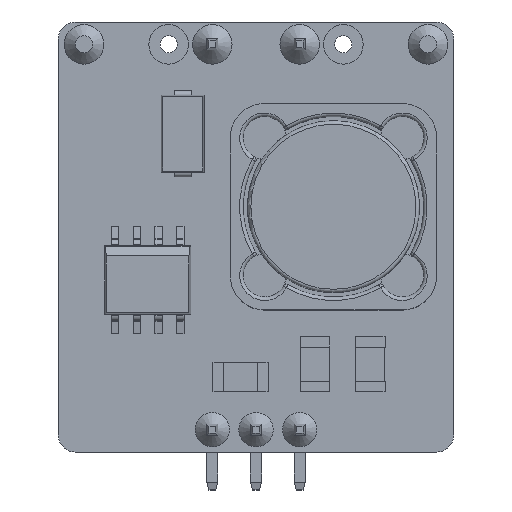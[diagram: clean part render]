
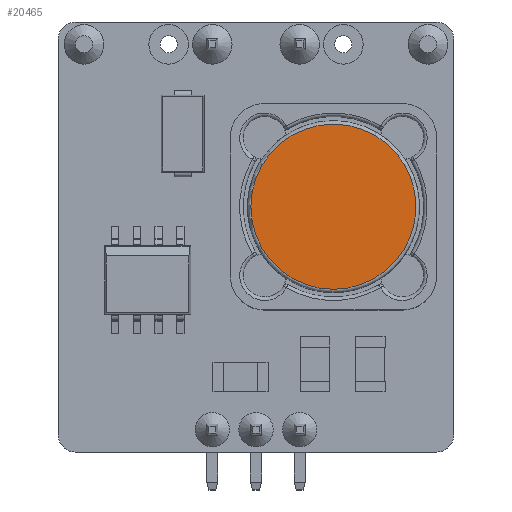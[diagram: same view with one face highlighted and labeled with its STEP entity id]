
A CAD part, top view. The second image highlights one B-rep face of the part: STEP entity #20465.
In plain terms, the highlighted planar face has unit normal (0, 0, 1).
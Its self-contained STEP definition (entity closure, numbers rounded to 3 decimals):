
#19581 = TOROIDAL_SURFACE('',#19582,4.8,0.2);
#19582 = AXIS2_PLACEMENT_3D('',#19583,#19584,#19585);
#19583 = CARTESIAN_POINT('',(4.5,1.75,5.8));
#19584 = DIRECTION('',(0.,0.,1.));
#19585 = DIRECTION('',(-1.,0.,0.));
#19711 = VERTEX_POINT('',#19712);
#19712 = CARTESIAN_POINT('',(4.5,6.55,6.));
#19736 = EDGE_CURVE('',#19711,#19711,#19737,.T.);
#19737 = SURFACE_CURVE('',#19738,(#19743,#19772),.PCURVE_S1.);
#19738 = CIRCLE('',#19739,4.8);
#19739 = AXIS2_PLACEMENT_3D('',#19740,#19741,#19742);
#19740 = CARTESIAN_POINT('',(4.5,1.75,6.));
#19741 = DIRECTION('',(0.,0.,-1.));
#19742 = DIRECTION('',(0.,-1.,0.));
#19743 = PCURVE('',#19581,#19744);
#19744 = DEFINITIONAL_REPRESENTATION('',(#19745),#19771);
#19745 = B_SPLINE_CURVE_WITH_KNOTS('',3,(#19746,#19747,#19748,#19749,
    #19750,#19751,#19752,#19753,#19754,#19755,#19756,#19757,#19758,
    #19759,#19760,#19761,#19762,#19763,#19764,#19765,#19766,#19767,
    #19768,#19769,#19770),.UNSPECIFIED.,.F.,.F.,(4,1,1,1,1,1,1,1,1,1,1,1
    ,1,1,1,1,1,1,1,1,1,1,4),(3.142,3.427,3.713
    ,3.998,4.284,4.57,4.855,
    5.141,5.426,5.712,5.998,
    6.283,6.569,6.854,7.14,
    7.426,7.711,7.997,8.282,
    8.568,8.854,9.139,9.425),
  .QUASI_UNIFORM_KNOTS.);
#19746 = CARTESIAN_POINT('',(10.996,7.854));
#19747 = CARTESIAN_POINT('',(10.9,7.854));
#19748 = CARTESIAN_POINT('',(10.71,7.854));
#19749 = CARTESIAN_POINT('',(10.424,7.854));
#19750 = CARTESIAN_POINT('',(10.139,7.854));
#19751 = CARTESIAN_POINT('',(9.853,7.854));
#19752 = CARTESIAN_POINT('',(9.568,7.854));
#19753 = CARTESIAN_POINT('',(9.282,7.854));
#19754 = CARTESIAN_POINT('',(8.996,7.854));
#19755 = CARTESIAN_POINT('',(8.711,7.854));
#19756 = CARTESIAN_POINT('',(8.425,7.854));
#19757 = CARTESIAN_POINT('',(8.14,7.854));
#19758 = CARTESIAN_POINT('',(7.854,7.854));
#19759 = CARTESIAN_POINT('',(7.568,7.854));
#19760 = CARTESIAN_POINT('',(7.283,7.854));
#19761 = CARTESIAN_POINT('',(6.997,7.854));
#19762 = CARTESIAN_POINT('',(6.712,7.854));
#19763 = CARTESIAN_POINT('',(6.426,7.854));
#19764 = CARTESIAN_POINT('',(6.14,7.854));
#19765 = CARTESIAN_POINT('',(5.855,7.854));
#19766 = CARTESIAN_POINT('',(5.569,7.854));
#19767 = CARTESIAN_POINT('',(5.284,7.854));
#19768 = CARTESIAN_POINT('',(4.998,7.854));
#19769 = CARTESIAN_POINT('',(4.808,7.854));
#19770 = CARTESIAN_POINT('',(4.712,7.854));
#19771 = ( GEOMETRIC_REPRESENTATION_CONTEXT(2) 
PARAMETRIC_REPRESENTATION_CONTEXT() REPRESENTATION_CONTEXT('2D SPACE',''
  ) );
#19772 = PCURVE('',#19773,#19778);
#19773 = PLANE('',#19774);
#19774 = AXIS2_PLACEMENT_3D('',#19775,#19776,#19777);
#19775 = CARTESIAN_POINT('',(4.5,1.75,6.));
#19776 = DIRECTION('',(0.,0.,1.));
#19777 = DIRECTION('',(-1.,0.,0.));
#19778 = DEFINITIONAL_REPRESENTATION('',(#19779),#19787);
#19779 = ( BOUNDED_CURVE() B_SPLINE_CURVE(2,(#19780,#19781,#19782,#19783
    ,#19784,#19785,#19786),.UNSPECIFIED.,.F.,.F.) 
B_SPLINE_CURVE_WITH_KNOTS((1,2,2,2,2,1),(-2.094,0.,
    2.094,4.189,6.283,8.378),
.UNSPECIFIED.) CURVE() GEOMETRIC_REPRESENTATION_ITEM() 
RATIONAL_B_SPLINE_CURVE((1.,0.5,1.,0.5,1.,0.5,1.)) REPRESENTATION_ITEM(
  '') );
#19780 = CARTESIAN_POINT('',(0.,4.8));
#19781 = CARTESIAN_POINT('',(8.314,4.8));
#19782 = CARTESIAN_POINT('',(4.157,-2.4));
#19783 = CARTESIAN_POINT('',(0.,-9.6));
#19784 = CARTESIAN_POINT('',(-4.157,-2.4));
#19785 = CARTESIAN_POINT('',(-8.314,4.8));
#19786 = CARTESIAN_POINT('',(0.,4.8));
#19787 = ( GEOMETRIC_REPRESENTATION_CONTEXT(2) 
PARAMETRIC_REPRESENTATION_CONTEXT() REPRESENTATION_CONTEXT('2D SPACE',''
  ) );
#20465 = ADVANCED_FACE('',(#20466),#19773,.T.);
#20466 = FACE_BOUND('',#20467,.T.);
#20467 = EDGE_LOOP('',(#20468));
#20468 = ORIENTED_EDGE('',*,*,#19736,.F.);
